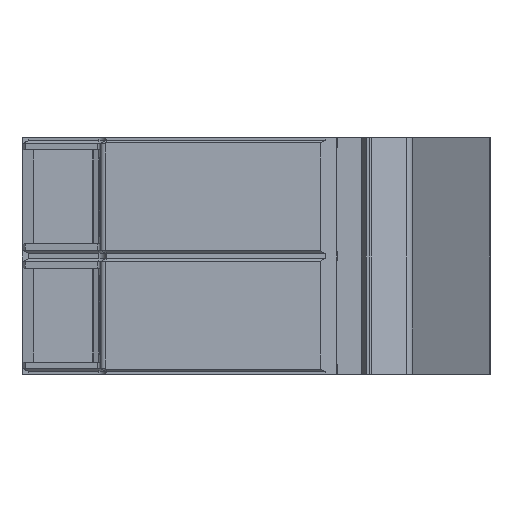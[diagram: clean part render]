
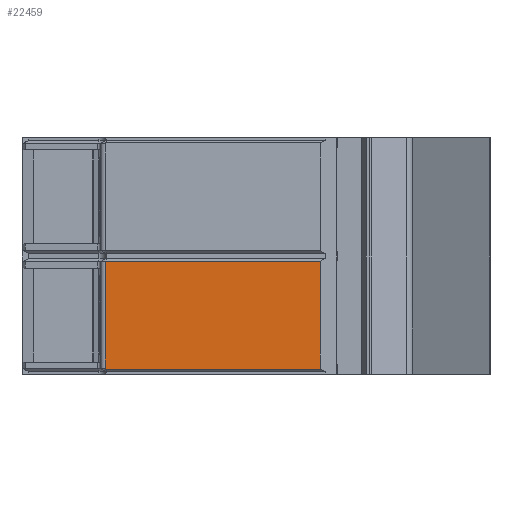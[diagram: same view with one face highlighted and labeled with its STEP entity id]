
A CAD part, left-side view. The second image highlights one B-rep face of the part: STEP entity #22459.
In plain terms, the highlighted planar face has unit normal (-1, 0, 0).
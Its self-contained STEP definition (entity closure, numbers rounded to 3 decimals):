
#6821=DIRECTION('',(0.,0.,1.));
#6822=VECTOR('',#6821,11.49);
#6823=CARTESIAN_POINT('',(-56.213,34.25,
0.531));
#6824=LINE('',#6823,#6822);
#6849=CARTESIAN_POINT('',(-56.213,34.25,12.022));
#6850=CARTESIAN_POINT('',(-56.213,34.239,12.023));
#6851=CARTESIAN_POINT('',(-56.213,34.217,12.024));
#6852=CARTESIAN_POINT('',(-56.213,34.183,12.026));
#6853=CARTESIAN_POINT('',(-56.213,34.161,12.027));
#6854=CARTESIAN_POINT('',(-56.213,34.15,12.027));
#6894=DIRECTION('',(0.,0.,-1.));
#6895=VECTOR('',#6894,11.5);
#6896=CARTESIAN_POINT('',(-56.213,11.31,12.027));
#6897=LINE('',#6896,#6895);
#7419=DIRECTION('',(0.,1.,0.));
#7420=VECTOR('',#7419,22.84);
#7421=CARTESIAN_POINT('',(-56.213,11.31,
0.527));
#7422=LINE('',#7421,#7420);
#7461=DIRECTION('',(0.,1.,0.));
#7462=VECTOR('',#7461,22.84);
#7463=CARTESIAN_POINT('',(-56.213,11.31,12.027));
#7464=LINE('',#7463,#7462);
#7468=CARTESIAN_POINT('',(-56.213,34.25,
0.531));
#7469=CARTESIAN_POINT('',(-56.213,34.239,
0.53));
#7470=CARTESIAN_POINT('',(-56.213,34.217,
0.529));
#7471=CARTESIAN_POINT('',(-56.213,34.183,
0.527));
#7472=CARTESIAN_POINT('',(-56.213,34.161,
0.527));
#7473=CARTESIAN_POINT('',(-56.213,34.15,
0.527));
#14580=CARTESIAN_POINT('',(-56.213,11.31,
12.027));
#14581=VERTEX_POINT('',#14580);
#14582=CARTESIAN_POINT('',(-56.213,11.31,
0.527));
#14583=VERTEX_POINT('',#14582);
#15215=CARTESIAN_POINT('',(-56.213,34.15,
12.027));
#15216=VERTEX_POINT('',#15215);
#15217=CARTESIAN_POINT('',(-56.213,34.25,
0.531));
#15218=CARTESIAN_POINT('',(-56.213,34.25,
12.022));
#15219=VERTEX_POINT('',#15217);
#15220=VERTEX_POINT('',#15218);
#15221=VERTEX_POINT('',#7473);
#22446=CARTESIAN_POINT('',(-56.213,34.25,
1.127));
#22447=DIRECTION('',(1.,0.,0.));
#22448=DIRECTION('',(0.,-1.,0.));
#22449=AXIS2_PLACEMENT_3D('',#22446,#22447,#22448);
#22450=PLANE('',#22449);
#22451=ORIENTED_EDGE('',*,*,#21816,.T.);
#22452=ORIENTED_EDGE('',*,*,#21833,.T.);
#22453=ORIENTED_EDGE('',*,*,#21847,.F.);
#22454=ORIENTED_EDGE('',*,*,#21879,.T.);
#22455=ORIENTED_EDGE('',*,*,#22415,.T.);
#22456=ORIENTED_EDGE('',*,*,#22428,.F.);
#22457=EDGE_LOOP('',(#22451,#22452,#22453,#22454,#22455,#22456));
#22458=FACE_OUTER_BOUND('',#22457,.F.);
#22459=ADVANCED_FACE('',(#22458),#22450,.F.);
#6855=B_SPLINE_CURVE_WITH_KNOTS('',3,(#6849,#6850,#6851,#6852,#6853,#6854),
.UNSPECIFIED.,.F.,.F.,(4,1,1,4),(0.,0.333,0.667,1.),
.UNSPECIFIED.);
#7474=B_SPLINE_CURVE_WITH_KNOTS('',3,(#7468,#7469,#7470,#7471,#7472,#7473),
.UNSPECIFIED.,.F.,.F.,(4,1,1,4),(0.,0.333,0.667,1.),
.UNSPECIFIED.);
#21816=EDGE_CURVE('',#15219,#15220,#6824,.T.);
#21833=EDGE_CURVE('',#15220,#15216,#6855,.T.);
#21847=EDGE_CURVE('',#14581,#15216,#7464,.T.);
#21879=EDGE_CURVE('',#14581,#14583,#6897,.T.);
#22415=EDGE_CURVE('',#14583,#15221,#7422,.T.);
#22428=EDGE_CURVE('',#15219,#15221,#7474,.T.);
